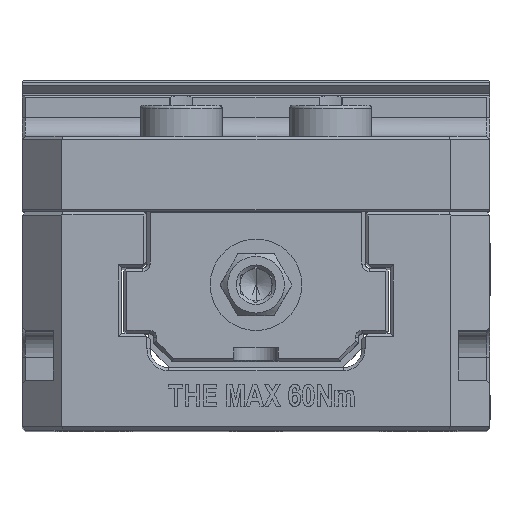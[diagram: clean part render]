
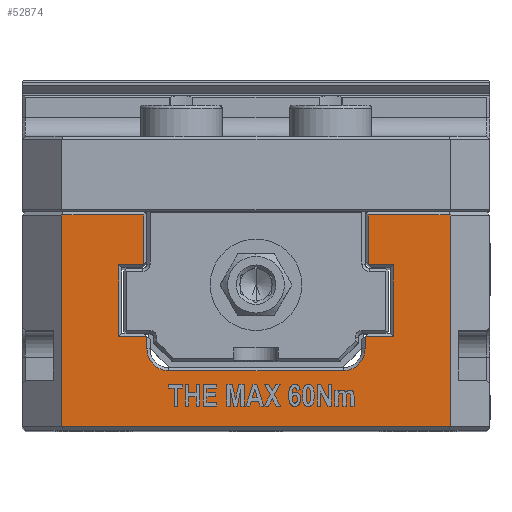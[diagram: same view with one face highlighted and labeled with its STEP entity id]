
A CAD part, top view. The second image highlights one B-rep face of the part: STEP entity #52874.
In plain terms, the highlighted planar face has unit normal (0, 0, 1).
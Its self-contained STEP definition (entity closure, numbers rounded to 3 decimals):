
#47900=DIRECTION('',(1.,0.,0.));
#47901=VECTOR('',#47900,62.3);
#47902=CARTESIAN_POINT('',(-31.15,-22.817,75.));
#47903=LINE('',#47902,#47901);
#47908=DIRECTION('',(0.,-1.,0.));
#47909=VECTOR('',#47908,11.5);
#47910=CARTESIAN_POINT('',(-22.026,3.184,75.));
#47911=LINE('',#47910,#47909);
#47912=DIRECTION('',(1.,0.,0.));
#47913=VECTOR('',#47912,4.526);
#47914=CARTESIAN_POINT('',(-22.026,-8.316,75.));
#47915=LINE('',#47914,#47913);
#47916=CARTESIAN_POINT('',(-14.,-10.31,75.));
#47917=DIRECTION('',(0.,0.,1.));
#47918=DIRECTION('',(-1.,0.,0.));
#47919=AXIS2_PLACEMENT_3D('',#47916,#47917,#47918);
#47921=DIRECTION('',(1.,0.,0.));
#47922=VECTOR('',#47921,28.);
#47923=CARTESIAN_POINT('',(-14.,-13.81,
75.));
#47924=LINE('',#47923,#47922);
#47925=CARTESIAN_POINT('',(14.,-10.31,75.));
#47926=DIRECTION('',(0.,0.,1.));
#47927=DIRECTION('',(0.,-1.,0.));
#47928=AXIS2_PLACEMENT_3D('',#47925,#47926,#47927);
#47930=DIRECTION('',(1.,0.,0.));
#47931=VECTOR('',#47930,4.526);
#47932=CARTESIAN_POINT('',(17.5,-8.316,75.));
#47933=LINE('',#47932,#47931);
#47934=DIRECTION('',(0.,1.,0.));
#47935=VECTOR('',#47934,11.5);
#47936=CARTESIAN_POINT('',(22.026,-8.316,75.));
#47937=LINE('',#47936,#47935);
#47938=DIRECTION('',(0.,1.,0.));
#47939=VECTOR('',#47938,34.001);
#47940=CARTESIAN_POINT('',(-31.15,-22.817,75.));
#47941=LINE('',#47940,#47939);
#47942=DIRECTION('',(1.,0.,0.));
#47943=VECTOR('',#47942,4.025);
#47944=CARTESIAN_POINT('',(-22.026,3.184,75.));
#47945=LINE('',#47944,#47943);
#47966=DIRECTION('',(0.,1.,0.));
#47967=VECTOR('',#47966,8.);
#47968=CARTESIAN_POINT('',(-18.001,3.184,75.));
#47969=LINE('',#47968,#47967);
#47978=DIRECTION('',(-1.,0.,0.));
#47979=VECTOR('',#47978,13.149);
#47980=CARTESIAN_POINT('',(-18.001,11.184,75.));
#47981=LINE('',#47980,#47979);
#48112=DIRECTION('',(1.,0.,0.));
#48113=VECTOR('',#48112,4.025);
#48114=CARTESIAN_POINT('',(18.001,3.184,75.));
#48115=LINE('',#48114,#48113);
#48166=DIRECTION('',(0.,-1.,0.));
#48167=VECTOR('',#48166,1.994);
#48168=CARTESIAN_POINT('',(17.5,-8.316,75.));
#48169=LINE('',#48168,#48167);
#48513=DIRECTION('',(0.,1.,0.));
#48514=VECTOR('',#48513,34.001);
#48515=CARTESIAN_POINT('',(31.15,-22.817,75.));
#48516=LINE('',#48515,#48514);
#50670=DIRECTION('',(0.,1.,0.));
#50671=VECTOR('',#50670,1.994);
#50672=CARTESIAN_POINT('',(-17.5,-10.31,
75.));
#50673=LINE('',#50672,#50671);
#51006=DIRECTION('',(-1.,0.,0.));
#51007=VECTOR('',#51006,13.149);
#51008=CARTESIAN_POINT('',(31.15,11.184,75.));
#51009=LINE('',#51008,#51007);
#51010=DIRECTION('',(0.,-1.,0.));
#51011=VECTOR('',#51010,8.);
#51012=CARTESIAN_POINT('',(18.001,11.184,75.));
#51013=LINE('',#51012,#51011);
#51736=CARTESIAN_POINT('',(31.15,-22.817,75.));
#51737=VERTEX_POINT('',#51736);
#51740=CARTESIAN_POINT('',(-31.15,-22.817,75.));
#51741=VERTEX_POINT('',#51740);
#51742=CARTESIAN_POINT('',(-22.026,3.184,75.));
#51743=CARTESIAN_POINT('',(-18.001,3.184,75.));
#51744=VERTEX_POINT('',#51742);
#51745=VERTEX_POINT('',#51743);
#51746=CARTESIAN_POINT('',(-22.026,-8.316,75.));
#51747=VERTEX_POINT('',#51746);
#51748=CARTESIAN_POINT('',(-17.5,-8.316,75.));
#51749=VERTEX_POINT('',#51748);
#51750=CARTESIAN_POINT('',(-17.5,-10.31,
75.));
#51751=VERTEX_POINT('',#51750);
#51752=CARTESIAN_POINT('',(-14.,-13.81,
75.));
#51753=VERTEX_POINT('',#51752);
#51754=CARTESIAN_POINT('',(14.,-13.81,
75.));
#51755=VERTEX_POINT('',#51754);
#51756=CARTESIAN_POINT('',(17.5,-10.31,
75.));
#51757=VERTEX_POINT('',#51756);
#51758=CARTESIAN_POINT('',(17.5,-8.316,75.));
#51759=VERTEX_POINT('',#51758);
#51760=CARTESIAN_POINT('',(22.026,-8.316,75.));
#51761=VERTEX_POINT('',#51760);
#51762=CARTESIAN_POINT('',(22.026,3.184,75.));
#51763=VERTEX_POINT('',#51762);
#51764=CARTESIAN_POINT('',(18.001,3.184,75.));
#51765=VERTEX_POINT('',#51764);
#51766=CARTESIAN_POINT('',(18.001,11.184,75.));
#51767=VERTEX_POINT('',#51766);
#51768=CARTESIAN_POINT('',(31.15,11.184,75.));
#51769=VERTEX_POINT('',#51768);
#51770=CARTESIAN_POINT('',(-31.15,11.184,75.));
#51771=VERTEX_POINT('',#51770);
#51772=CARTESIAN_POINT('',(-18.001,11.184,75.));
#51773=VERTEX_POINT('',#51772);
#52832=CARTESIAN_POINT('',(-13.716,-10.135,75.));
#52833=DIRECTION('',(0.,0.,1.));
#52834=DIRECTION('',(1.,0.,0.));
#52835=AXIS2_PLACEMENT_3D('',#52832,#52833,#52834);
#52836=PLANE('',#52835);
#52838=ORIENTED_EDGE('',*,*,#52837,.F.);
#52840=ORIENTED_EDGE('',*,*,#52839,.T.);
#52842=ORIENTED_EDGE('',*,*,#52841,.T.);
#52844=ORIENTED_EDGE('',*,*,#52843,.F.);
#52846=ORIENTED_EDGE('',*,*,#52845,.T.);
#52848=ORIENTED_EDGE('',*,*,#52847,.T.);
#52850=ORIENTED_EDGE('',*,*,#52849,.T.);
#52852=ORIENTED_EDGE('',*,*,#52851,.F.);
#52854=ORIENTED_EDGE('',*,*,#52853,.T.);
#52856=ORIENTED_EDGE('',*,*,#52855,.T.);
#52858=ORIENTED_EDGE('',*,*,#52857,.F.);
#52860=ORIENTED_EDGE('',*,*,#52859,.F.);
#52862=ORIENTED_EDGE('',*,*,#52861,.F.);
#52864=ORIENTED_EDGE('',*,*,#52863,.F.);
#52865=ORIENTED_EDGE('',*,*,#52823,.F.);
#52867=ORIENTED_EDGE('',*,*,#52866,.T.);
#52869=ORIENTED_EDGE('',*,*,#52868,.F.);
#52871=ORIENTED_EDGE('',*,*,#52870,.F.);
#52872=EDGE_LOOP('',(#52838,#52840,#52842,#52844,#52846,#52848,#52850,#52852,
#52854,#52856,#52858,#52860,#52862,#52864,#52865,#52867,#52869,#52871));
#52873=FACE_OUTER_BOUND('',#52872,.F.);
#52874=ADVANCED_FACE('',(#52873),#52836,.T.);
#47920=CIRCLE('',#47919,3.5);
#47929=CIRCLE('',#47928,3.5);
#52823=EDGE_CURVE('',#51741,#51737,#47903,.T.);
#52837=EDGE_CURVE('',#51744,#51745,#47945,.T.);
#52839=EDGE_CURVE('',#51744,#51747,#47911,.T.);
#52841=EDGE_CURVE('',#51747,#51749,#47915,.T.);
#52843=EDGE_CURVE('',#51751,#51749,#50673,.T.);
#52845=EDGE_CURVE('',#51751,#51753,#47920,.T.);
#52847=EDGE_CURVE('',#51753,#51755,#47924,.T.);
#52849=EDGE_CURVE('',#51755,#51757,#47929,.T.);
#52851=EDGE_CURVE('',#51759,#51757,#48169,.T.);
#52853=EDGE_CURVE('',#51759,#51761,#47933,.T.);
#52855=EDGE_CURVE('',#51761,#51763,#47937,.T.);
#52857=EDGE_CURVE('',#51765,#51763,#48115,.T.);
#52859=EDGE_CURVE('',#51767,#51765,#51013,.T.);
#52861=EDGE_CURVE('',#51769,#51767,#51009,.T.);
#52863=EDGE_CURVE('',#51737,#51769,#48516,.T.);
#52866=EDGE_CURVE('',#51741,#51771,#47941,.T.);
#52868=EDGE_CURVE('',#51773,#51771,#47981,.T.);
#52870=EDGE_CURVE('',#51745,#51773,#47969,.T.);
